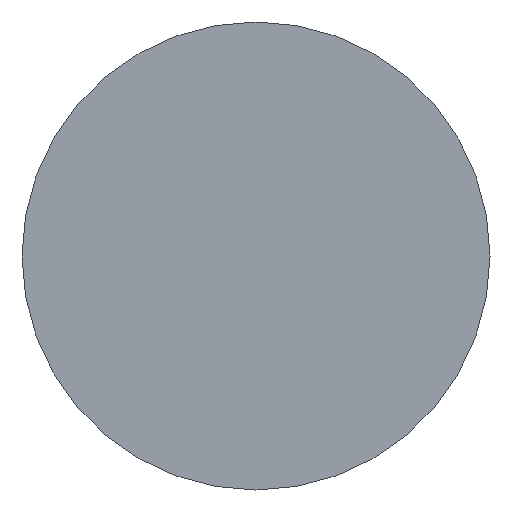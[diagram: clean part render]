
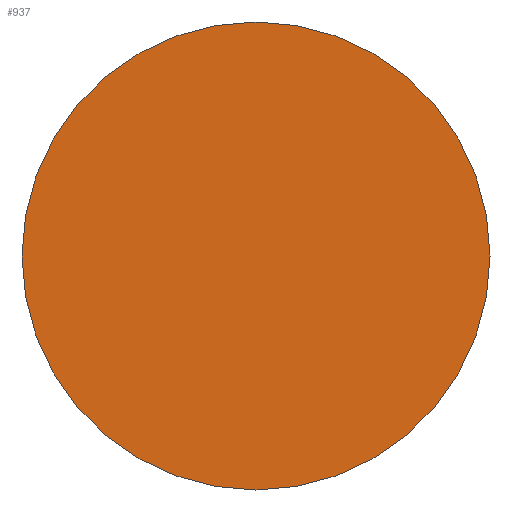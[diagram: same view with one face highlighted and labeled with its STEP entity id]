
A CAD part, front view. The second image highlights one B-rep face of the part: STEP entity #937.
In plain terms, the highlighted planar face has unit normal (0, -1, 0).
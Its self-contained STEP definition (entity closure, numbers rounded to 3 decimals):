
#270 = ORIENTED_EDGE ( 'NONE', *, *, #1246, .T. ) ;
#382 = EDGE_CURVE ( 'NONE', #554, #1663, #1431, .T. ) ;
#471 = DIRECTION ( 'NONE',  ( 0., -1., 0. ) ) ;
#527 = CARTESIAN_POINT ( 'NONE',  ( 38., -78., 58. ) ) ;
#554 = VERTEX_POINT ( 'NONE', #527 ) ;
#601 = CARTESIAN_POINT ( 'NONE',  ( 0., -78., 58. ) ) ;
#643 = AXIS2_PLACEMENT_3D ( 'NONE', #1997, #673, #2437 ) ;
#673 = DIRECTION ( 'NONE',  ( 0., -1., 0. ) ) ;
#693 = CIRCLE ( 'NONE', #1673, 38. ) ;
#826 = DIRECTION ( 'NONE',  ( -1., 0., 0. ) ) ;
#905 = PLANE ( 'NONE',  #643 ) ;
#937 = ADVANCED_FACE ( 'NONE', ( #2290 ), #905, .T. ) ;
#1166 = CARTESIAN_POINT ( 'NONE',  ( -38., -78., 58. ) ) ;
#1246 = EDGE_CURVE ( 'NONE', #1663, #554, #693, .T. ) ;
#1431 = CIRCLE ( 'NONE', #2513, 38. ) ;
#1663 = VERTEX_POINT ( 'NONE', #1166 ) ;
#1673 = AXIS2_PLACEMENT_3D ( 'NONE', #1798, #471, #2019 ) ;
#1798 = CARTESIAN_POINT ( 'NONE',  ( 0., -78., 58. ) ) ;
#1997 = CARTESIAN_POINT ( 'NONE',  ( 19., -78., 58. ) ) ;
#2019 = DIRECTION ( 'NONE',  ( -1., 0., 0. ) ) ;
#2140 = DIRECTION ( 'NONE',  ( 0., -1., 0. ) ) ;
#2290 = FACE_OUTER_BOUND ( 'NONE', #2447, .T. ) ;
#2437 = DIRECTION ( 'NONE',  ( -1., 0., 0. ) ) ;
#2447 = EDGE_LOOP ( 'NONE', ( #270, #2743 ) ) ;
#2513 = AXIS2_PLACEMENT_3D ( 'NONE', #601, #2140, #826 ) ;
#2743 = ORIENTED_EDGE ( 'NONE', *, *, #382, .T. ) ;
